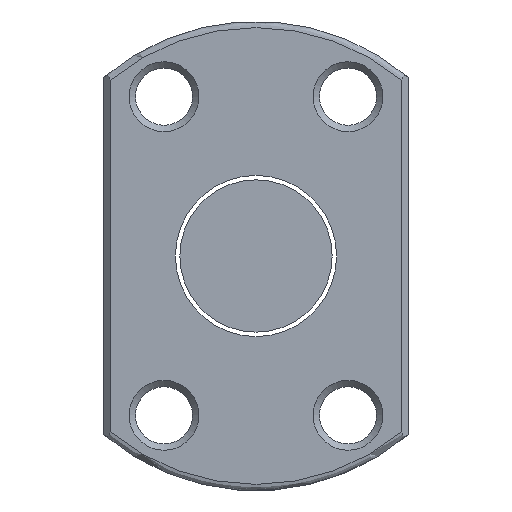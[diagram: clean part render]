
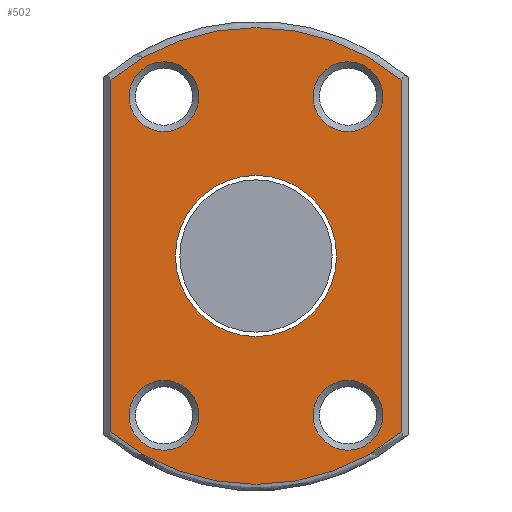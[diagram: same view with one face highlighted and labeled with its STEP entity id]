
A CAD part, left-side view. The second image highlights one B-rep face of the part: STEP entity #502.
In plain terms, the highlighted planar face has unit normal (-1, 0, 0).
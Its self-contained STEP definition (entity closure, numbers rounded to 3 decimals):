
#54 = EDGE_LOOP ( 'NONE', ( #824 ) ) ;
#60 = VERTEX_POINT ( 'NONE', #731 ) ;
#62 = VERTEX_POINT ( 'NONE', #695 ) ;
#67 = VERTEX_POINT ( 'NONE', #144 ) ;
#71 = VERTEX_POINT ( 'NONE', #812 ) ;
#75 = VERTEX_POINT ( 'NONE', #474 ) ;
#77 = VERTEX_POINT ( 'NONE', #806 ) ;
#88 = DIRECTION ( 'NONE',  ( 1., 0., 0. ) ) ;
#93 = EDGE_CURVE ( 'NONE', #111, #62, #761, .T. ) ;
#103 = CARTESIAN_POINT ( 'NONE',  ( -28., 7.25, -12.557 ) ) ;
#110 = CARTESIAN_POINT ( 'NONE',  ( -28., -11.5, 0. ) ) ;
#111 = VERTEX_POINT ( 'NONE', #925 ) ;
#144 = CARTESIAN_POINT ( 'NONE',  ( -28., 4.5, 12.557 ) ) ;
#158 = DIRECTION ( 'NONE',  ( 1., 0., 0. ) ) ;
#166 = DIRECTION ( 'NONE',  ( -1., 0., 0. ) ) ;
#200 = DIRECTION ( 'NONE',  ( 1., 0., 0. ) ) ;
#211 = CARTESIAN_POINT ( 'NONE',  ( -28., -10., 12.557 ) ) ;
#214 = ORIENTED_EDGE ( 'NONE', *, *, #796, .T. ) ;
#216 = DIRECTION ( 'NONE',  ( -1., 0., 0. ) ) ;
#219 = EDGE_LOOP ( 'NONE', ( #661 ) ) ;
#229 = DIRECTION ( 'NONE',  ( 0., 1., 0. ) ) ;
#250 = VERTEX_POINT ( 'NONE', #833 ) ;
#253 = CARTESIAN_POINT ( 'NONE',  ( -28., 11.5, 0. ) ) ;
#270 = DIRECTION ( 'NONE',  ( 0., -1., 0. ) ) ;
#277 = EDGE_CURVE ( 'NONE', #71, #71, #350, .T. ) ;
#284 = CIRCLE ( 'NONE', #664, 2.75 ) ;
#290 = AXIS2_PLACEMENT_3D ( 'NONE', #697, #844, #270 ) ;
#297 = EDGE_LOOP ( 'NONE', ( #372 ) ) ;
#298 = VERTEX_POINT ( 'NONE', #211 ) ;
#302 = ORIENTED_EDGE ( 'NONE', *, *, #93, .T. ) ;
#305 = FACE_BOUND ( 'NONE', #219, .T. ) ;
#325 = EDGE_CURVE ( 'NONE', #75, #250, #395, .T. ) ;
#341 = VECTOR ( 'NONE', #694, 1000. ) ;
#350 = CIRCLE ( 'NONE', #693, 2.75 ) ;
#351 = ORIENTED_EDGE ( 'NONE', *, *, #325, .T. ) ;
#365 = EDGE_CURVE ( 'NONE', #250, #111, #915, .T. ) ;
#372 = ORIENTED_EDGE ( 'NONE', *, *, #277, .T. ) ;
#389 = AXIS2_PLACEMENT_3D ( 'NONE', #683, #158, #229 ) ;
#395 = CIRCLE ( 'NONE', #926, 18. ) ;
#435 = FACE_OUTER_BOUND ( 'NONE', #724, .T. ) ;
#459 = DIRECTION ( 'NONE',  ( 0., -1., 0. ) ) ;
#472 = DIRECTION ( 'NONE',  ( 1., 0., 0. ) ) ;
#474 = CARTESIAN_POINT ( 'NONE',  ( -28., 11.5, -13.847 ) ) ;
#478 = AXIS2_PLACEMENT_3D ( 'NONE', #103, #472, #784 ) ;
#486 = ORIENTED_EDGE ( 'NONE', *, *, #663, .T. ) ;
#487 = LINE ( 'NONE', #253, #341 ) ;
#494 = EDGE_LOOP ( 'NONE', ( #486 ) ) ;
#497 = AXIS2_PLACEMENT_3D ( 'NONE', #884, #216, #732 ) ;
#502 = ADVANCED_FACE ( 'NONE', ( #643, #814, #305, #654, #803, #435 ), #721, .T. ) ;
#579 = AXIS2_PLACEMENT_3D ( 'NONE', #746, #896, #606 ) ;
#589 = CIRCLE ( 'NONE', #478, 2.75 ) ;
#595 = VECTOR ( 'NONE', #629, 1000. ) ;
#604 = CARTESIAN_POINT ( 'NONE',  ( -28., 0., 0. ) ) ;
#606 = DIRECTION ( 'NONE',  ( 0., -1., 0. ) ) ;
#613 = DIRECTION ( 'NONE',  ( 0., -1., 0. ) ) ;
#629 = DIRECTION ( 'NONE',  ( 0., 0., 1. ) ) ;
#632 = EDGE_CURVE ( 'NONE', #298, #298, #813, .T. ) ;
#643 = FACE_BOUND ( 'NONE', #297, .T. ) ;
#646 = ORIENTED_EDGE ( 'NONE', *, *, #632, .T. ) ;
#654 = FACE_BOUND ( 'NONE', #54, .T. ) ;
#661 = ORIENTED_EDGE ( 'NONE', *, *, #930, .T. ) ;
#663 = EDGE_CURVE ( 'NONE', #60, #60, #805, .T. ) ;
#664 = AXIS2_PLACEMENT_3D ( 'NONE', #878, #200, #794 ) ;
#683 = CARTESIAN_POINT ( 'NONE',  ( -28., 0., 0. ) ) ;
#693 = AXIS2_PLACEMENT_3D ( 'NONE', #895, #88, #613 ) ;
#694 = DIRECTION ( 'NONE',  ( 0., 0., -1. ) ) ;
#695 = CARTESIAN_POINT ( 'NONE',  ( -28., 11.5, 13.847 ) ) ;
#697 = CARTESIAN_POINT ( 'NONE',  ( -28., 0., 0. ) ) ;
#721 = PLANE ( 'NONE',  #497 ) ;
#724 = EDGE_LOOP ( 'NONE', ( #214, #351, #849, #302 ) ) ;
#729 = EDGE_LOOP ( 'NONE', ( #646 ) ) ;
#731 = CARTESIAN_POINT ( 'NONE',  ( -28., 6.35, 0. ) ) ;
#732 = DIRECTION ( 'NONE',  ( 0., -1., 0. ) ) ;
#746 = CARTESIAN_POINT ( 'NONE',  ( -28., -7.25, 12.557 ) ) ;
#761 = CIRCLE ( 'NONE', #290, 18. ) ;
#784 = DIRECTION ( 'NONE',  ( 0., -1., 0. ) ) ;
#794 = DIRECTION ( 'NONE',  ( 0., -1., 0. ) ) ;
#796 = EDGE_CURVE ( 'NONE', #62, #75, #487, .T. ) ;
#803 = FACE_BOUND ( 'NONE', #494, .T. ) ;
#805 = CIRCLE ( 'NONE', #389, 6.35 ) ;
#806 = CARTESIAN_POINT ( 'NONE',  ( -28., 4.5, -12.557 ) ) ;
#812 = CARTESIAN_POINT ( 'NONE',  ( -28., -10., -12.557 ) ) ;
#813 = CIRCLE ( 'NONE', #579, 2.75 ) ;
#814 = FACE_BOUND ( 'NONE', #729, .T. ) ;
#818 = EDGE_CURVE ( 'NONE', #77, #77, #589, .T. ) ;
#824 = ORIENTED_EDGE ( 'NONE', *, *, #818, .T. ) ;
#833 = CARTESIAN_POINT ( 'NONE',  ( -28., -11.5, -13.847 ) ) ;
#844 = DIRECTION ( 'NONE',  ( -1., 0., 0. ) ) ;
#849 = ORIENTED_EDGE ( 'NONE', *, *, #365, .T. ) ;
#878 = CARTESIAN_POINT ( 'NONE',  ( -28., 7.25, 12.557 ) ) ;
#884 = CARTESIAN_POINT ( 'NONE',  ( -28., 18.5, 0. ) ) ;
#895 = CARTESIAN_POINT ( 'NONE',  ( -28., -7.25, -12.557 ) ) ;
#896 = DIRECTION ( 'NONE',  ( 1., 0., 0. ) ) ;
#915 = LINE ( 'NONE', #110, #595 ) ;
#925 = CARTESIAN_POINT ( 'NONE',  ( -28., -11.5, 13.847 ) ) ;
#926 = AXIS2_PLACEMENT_3D ( 'NONE', #604, #166, #459 ) ;
#930 = EDGE_CURVE ( 'NONE', #67, #67, #284, .T. ) ;
